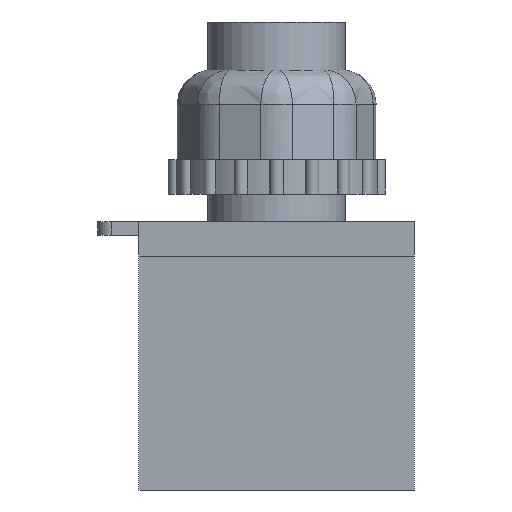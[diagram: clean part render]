
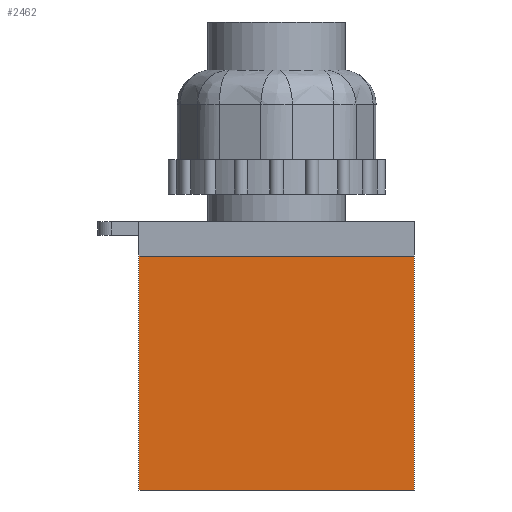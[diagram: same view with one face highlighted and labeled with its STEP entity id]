
A CAD part, front view. The second image highlights one B-rep face of the part: STEP entity #2462.
In plain terms, the highlighted planar face has unit normal (0, -1, 0).
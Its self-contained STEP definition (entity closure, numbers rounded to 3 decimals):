
#238=FACE_OUTER_BOUND('',#386,.T.);
#386=EDGE_LOOP('',(#1644,#1645,#1646,#1647));
#539=LINE('',#3623,#777);
#541=LINE('',#3627,#779);
#544=LINE('',#3632,#782);
#545=LINE('',#3634,#783);
#777=VECTOR('',#2878,10.);
#779=VECTOR('',#2882,10.);
#782=VECTOR('',#2887,10.);
#783=VECTOR('',#2890,10.);
#1014=VERTEX_POINT('',#3620);
#1015=VERTEX_POINT('',#3622);
#1016=VERTEX_POINT('',#3626);
#1017=VERTEX_POINT('',#3630);
#1260=EDGE_CURVE('',#1015,#1014,#539,.T.);
#1262=EDGE_CURVE('',#1015,#1016,#541,.T.);
#1265=EDGE_CURVE('',#1014,#1017,#544,.T.);
#1266=EDGE_CURVE('',#1016,#1017,#545,.T.);
#1644=ORIENTED_EDGE('',*,*,#1260,.T.);
#1645=ORIENTED_EDGE('',*,*,#1265,.T.);
#1646=ORIENTED_EDGE('',*,*,#1266,.F.);
#1647=ORIENTED_EDGE('',*,*,#1262,.F.);
#2378=PLANE('',#2620);
#2462=ADVANCED_FACE('',(#238),#2378,.T.);
#2620=AXIS2_PLACEMENT_3D('',#3633,#2888,#2889);
#2878=DIRECTION('',(1.,0.,0.));
#2882=DIRECTION('',(0.,0.,1.));
#2887=DIRECTION('',(0.,0.,1.));
#2888=DIRECTION('center_axis',(0.,-1.,0.));
#2889=DIRECTION('ref_axis',(1.,0.,0.));
#2890=DIRECTION('',(1.,0.,0.));
#3620=CARTESIAN_POINT('',(20.,-15.5,0.));
#3622=CARTESIAN_POINT('',(-20.,-15.5,0.));
#3623=CARTESIAN_POINT('',(-20.,-15.5,0.));
#3626=CARTESIAN_POINT('',(-20.,-15.5,34.));
#3627=CARTESIAN_POINT('',(-20.,-15.5,0.));
#3630=CARTESIAN_POINT('',(20.,-15.5,34.));
#3632=CARTESIAN_POINT('',(20.,-15.5,0.));
#3633=CARTESIAN_POINT('Origin',(-20.,-15.5,0.));
#3634=CARTESIAN_POINT('',(-20.,-15.5,34.));
